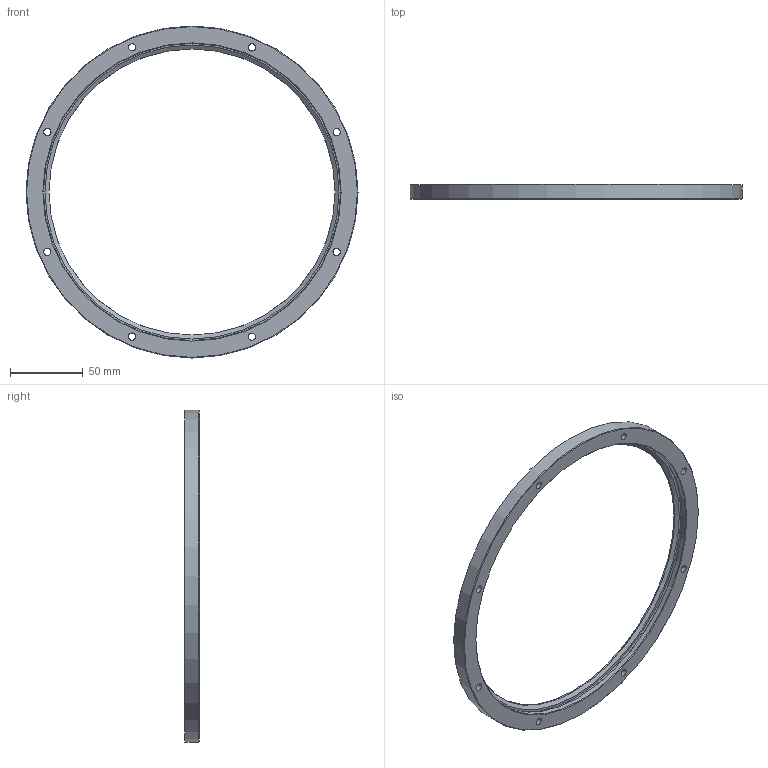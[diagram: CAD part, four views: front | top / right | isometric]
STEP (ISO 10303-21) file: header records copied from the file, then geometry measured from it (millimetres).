
FILE_DESCRIPTION(('STEP AP203'),'1');
FILE_NAME('RIV 228 R360.stp','2022-07-19T05:00:43',(' '),(' '),'Spatial InterOp 3D',' ',' ');
FILE_SCHEMA(('CONFIG_CONTROL_DESIGN'));
Length unit declared in the file: millimetre
Products named in the file (1): RIV 228 R360
Bounding box: 228.2 x 10 x 228.2 mm (x, y, z)
Volume: 85068.7 mm3; surface area: 34699.8 mm2
Topology: 1 solids, 1 shells, 36 faces, 75 edges, 51 vertices
Faces by surface type: cylinder 19, plane 12, cone 4, torus 1
Full cylindrical faces by diameter (mm): 5 x8, 8 x8, 204.2 x1, 205.4 x1, 228.2 x1
Entity records: 902 total; most frequent: DIRECTION 162, CARTESIAN_POINT 125, EDGE_LOOP 88, ORIENTED_EDGE 88, AXIS2_PLACEMENT_3D 81, FACE_OUTER_BOUND 56, EDGE_CURVE 44, VERTEX_POINT 44
